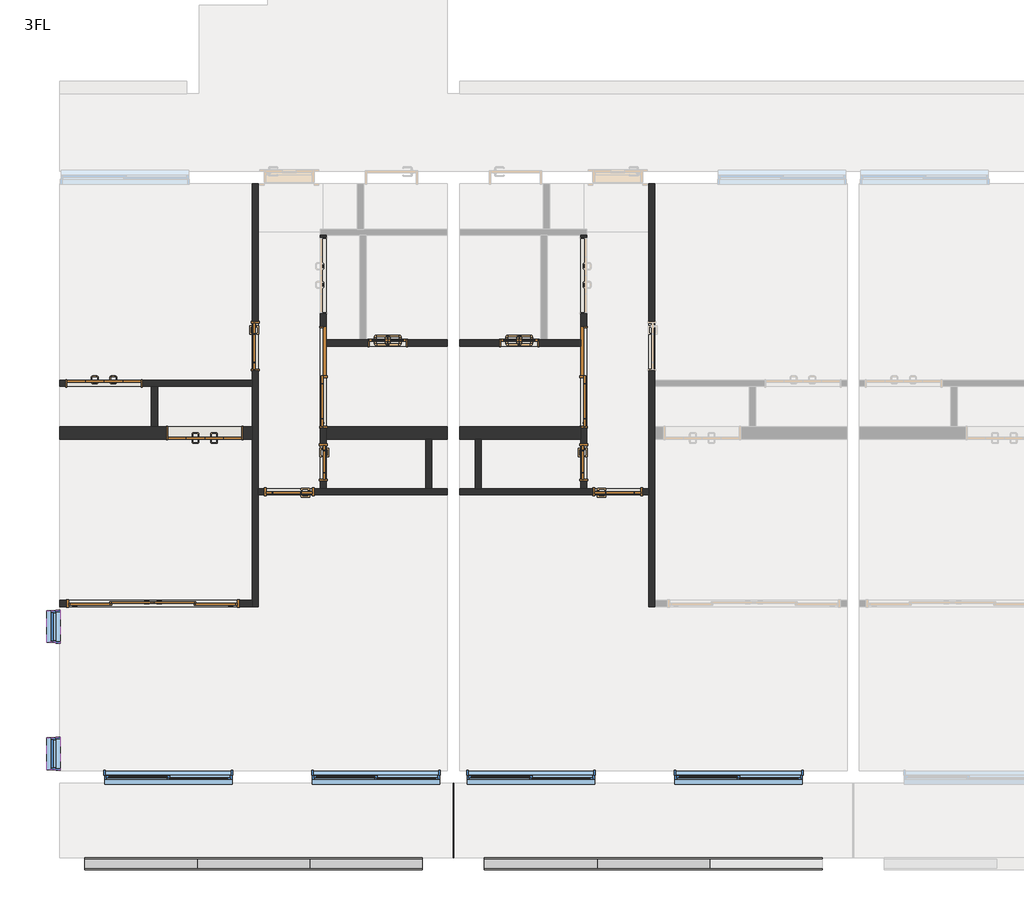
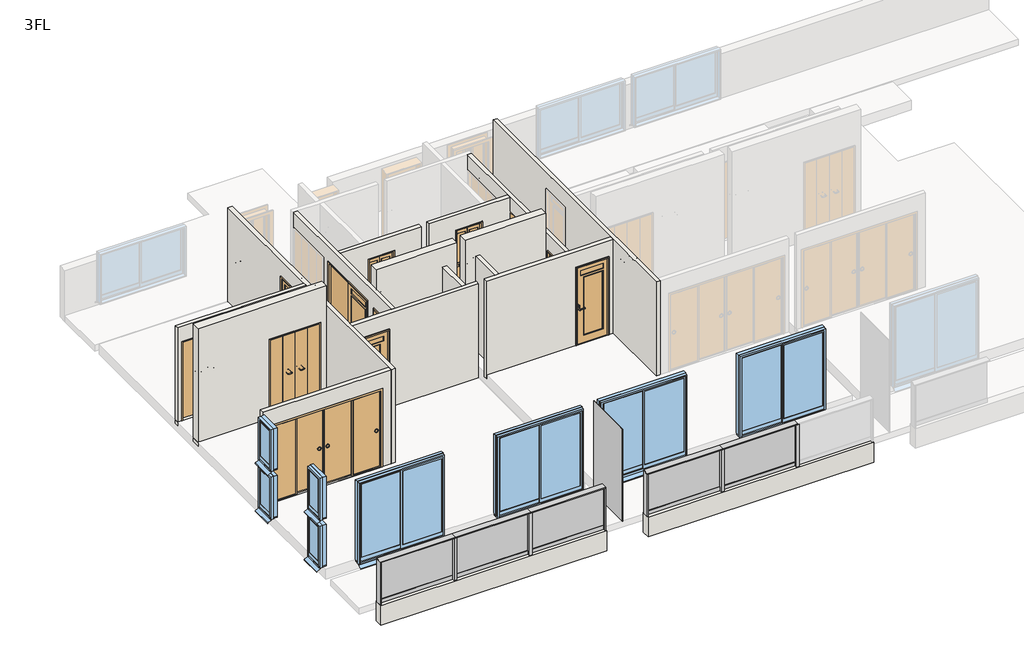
# One storey, part 1 of 3: 18 walls, 12 doors, 12 members, 8 windows, 6 plates.
"""IFC4 building model written with IfcOpenShell, lengths in millimetres."""

from ifc_helpers import new_model, si_unit, frame, origin, place, context, project, spatial, polyline, outline, extrude, faceted_brep, transform, mapped, element, save
from components import w1200h2000_6a144d60, w1200h2000_98cacc9b, w1600h2000_4c3c234a, w1600h2000_ca690e72, w2800h2000_670b855b, w600h2000_7f2747f4, w600h2000_6a266bef, w600h2000_94bb9c3c, w600h2000_8ea70a65, w800h2000_13e9f519, w800h2000_ccb03061, member_25x150_3f8205e2, member_25x150_f694351b, member_70x150_851c8a9b, plate_9f48129f, plate_365944b3, plate_cef4847d, window_2000x2000_f1ff98da, window_450x1000_e0a5e2da

model = new_model("IFC4")

# Units and contexts
model_context = context("Model", 3, world=origin())
ifc_project = project(units=[si_unit("LENGTHUNIT", "METRE", prefix="MILLI")], contexts=[model_context])

# Site, building, storey
site = spatial("IfcSite", under=ifc_project)
building = spatial("IfcBuilding", under=site)
storey = spatial("IfcBuildingStorey", under=building, Name="3FL", Elevation=7000.0)

# Doors
placement = place(None, origin())
w1200h2000_shape = w1200h2000_6a144d60(model_context)
element("IfcDoor", 1, ObjectType="木製折戸 : w1200h2000", at=placement, inside=storey, context=model_context, shape_type="MappedRepresentation", body=[
    mapped(w1200h2000_shape, transform((-10366.2187246, -9020.1171638, 7100.0), x_axis=(1.0, 0.0, 0.0), y_axis=(0.0, 1.0, 0.0), z_axis=(0.0, 0.0, 1.0))),
])
w1200h2000_2_shape = w1200h2000_98cacc9b(model_context)
element("IfcDoor", 2, ObjectType="木製折戸 : w1200h2000", at=placement, inside=storey, context=model_context, shape_type="MappedRepresentation", body=[
    mapped(w1200h2000_2_shape, transform((-8741.2187246, -9820.1171638, 7100.0), x_axis=(-1.0, 0.0, 0.0), y_axis=(0.0, -1.0, 0.0), z_axis=(0.0, 0.0, 1.0))),
])
w1600h2000_shape = w1600h2000_4c3c234a(model_context)
element("IfcDoor", 3, ObjectType="片引戸CL2017 : w1600h2000", at=placement, inside=storey, context=model_context, shape_type="MappedRepresentation", body=[
    mapped(w1600h2000_shape, transform((-6828.7187246, -8920.1171638, 7100.0), x_axis=(0.0, -1.0, 0.0), y_axis=(1.0, 0.0, 0.0), z_axis=(0.0, 0.0, 1.0))),
])
w1600h2000_2_shape = w1600h2000_ca690e72(model_context)
element("IfcDoor", 4, ObjectType="片引戸CL2017 : w1600h2000", at=placement, inside=storey, context=model_context, shape_type="MappedRepresentation", body=[
    mapped(w1600h2000_2_shape, transform((-2628.7187246, -8920.1171638, 7100.0), x_axis=(0.0, -1.0, 0.0), y_axis=(1.0, 0.0, 0.0), z_axis=(0.0, 0.0, 1.0))),
])
w2800h2000_shape = w2800h2000_670b855b(model_context)
element("IfcDoor", 5, ObjectType="引違い 4 枚 2 溝_襖 : w2800h2000", at=placement, inside=storey, context=model_context, shape_type="MappedRepresentation", body=[
    mapped(w2800h2000_shape, transform((-9584.2542286, -12570.1171638, 7100.0), x_axis=(-1.0, 0.0, 0.0), y_axis=(0.0, -1.0, 0.0), z_axis=(0.0, 0.0, 1.0))),
])
w600h2000_shape = w600h2000_7f2747f4(model_context)
element("IfcDoor", 6, ObjectType="片開戸CL2058 : w600h2000", at=placement, inside=storey, context=model_context, shape_type="MappedRepresentation", body=[
    mapped(w600h2000_shape, transform((-6828.7187246, -10295.1171638, 7100.0), x_axis=(0.0, -1.0, 0.0), y_axis=(1.0, 0.0, 0.0), z_axis=(0.0, 0.0, 1.0))),
])
w600h2000_2_shape = w600h2000_6a266bef(model_context)
element("IfcDoor", 7, ObjectType="浴室折戸 : w600h2000", at=placement, inside=storey, context=model_context, shape_type="MappedRepresentation", body=[
    mapped(w600h2000_2_shape, transform((-5788.7187246, -8370.1171638, 7100.0), x_axis=(1.0, 0.0, 0.0), y_axis=(0.0, 1.0, 0.0), z_axis=(0.0, 0.0, 1.0))),
])
w600h2000_3_shape = w600h2000_94bb9c3c(model_context)
element("IfcDoor", 8, ObjectType="浴室折戸 : w600h2000", at=placement, inside=storey, context=model_context, shape_type="MappedRepresentation", body=[
    mapped(w600h2000_3_shape, transform((-3668.7187246, -8370.1171638, 7100.0), x_axis=(-1.0, 0.0, 0.0), y_axis=(0.0, -1.0, 0.0), z_axis=(0.0, 0.0, 1.0))),
])
w600h2000_4_shape = w600h2000_8ea70a65(model_context)
element("IfcDoor", 9, ObjectType="片開戸CL2058 : w600h2000", at=placement, inside=storey, context=model_context, shape_type="MappedRepresentation", body=[
    mapped(w600h2000_4_shape, transform((-2628.7187246, -10295.1171638, 7100.0), x_axis=(0.0, -1.0, 0.0), y_axis=(1.0, 0.0, 0.0), z_axis=(0.0, 0.0, 1.0))),
])
w800h2000_shape = w800h2000_13e9f519(model_context)
element("IfcDoor", 10, ObjectType="片開戸CL2058 : w800h2000", at=placement, inside=storey, context=model_context, shape_type="MappedRepresentation", body=[
    mapped(w800h2000_shape, transform((-7928.7187246, -8420.1171638, 7100.0), x_axis=(0.0, -1.0, 0.0), y_axis=(1.0, 0.0, 0.0), z_axis=(0.0, 0.0, 1.0))),
])
element("IfcDoor", 11, ObjectType="片開戸CL2058 : w800h2000", at=placement, inside=storey, context=model_context, shape_type="MappedRepresentation", body=[
    mapped(w800h2000_shape, transform((-2078.7187246, -10770.1171638, 7100.0), x_axis=(1.0, 0.0, 0.0), y_axis=(0.0, 1.0, 0.0), z_axis=(0.0, 0.0, 1.0))),
])
w800h2000_2_shape = w800h2000_ccb03061(model_context)
element("IfcDoor", 12, ObjectType="片開戸CL2058 : w800h2000", at=placement, inside=storey, context=model_context, shape_type="MappedRepresentation", body=[
    mapped(w800h2000_2_shape, transform((-7378.7187246, -10770.1171638, 7100.0), x_axis=(-1.0, 0.0, 0.0), y_axis=(0.0, -1.0, 0.0), z_axis=(0.0, 0.0, 1.0))),
])

# Members
member_25x150_shape = member_25x150_3f8205e2(model_context)
element("IfcMember", 13, ObjectType="長方形のマリオン : 25x150", at=placement, inside=storey, context=model_context, shape_type="MappedRepresentation", body=[
    mapped(member_25x150_shape, transform((-5228.7187246, -16770.1171638, 7000.0), x_axis=(1.0, 0.0, 0.0), y_axis=(0.0, -1.0, 0.0), z_axis=(0.0, 0.0, -1.0))),
])
element("IfcMember", 14, ObjectType="長方形のマリオン : 25x150", at=placement, inside=storey, context=model_context, shape_type="MappedRepresentation", body=[
    mapped(member_25x150_shape, transform((-10678.7187246, -16770.1171638, 8075.0), x_axis=(-1.0, 0.0, 0.0), y_axis=(0.0, -1.0, 0.0), z_axis=(0.0, 0.0, 1.0))),
])
element("IfcMember", 15, ObjectType="長方形のマリオン : 25x150", at=placement, inside=storey, context=model_context, shape_type="MappedRepresentation", body=[
    mapped(member_25x150_shape, transform((-4228.7187246, -16770.1171638, 8075.0), x_axis=(-1.0, 0.0, 0.0), y_axis=(0.0, -1.0, 0.0), z_axis=(0.0, 0.0, 1.0))),
])
member_25x150_2_shape = member_25x150_f694351b(model_context)
element("IfcMember", 16, ObjectType="長方形のマリオン : 25x150", at=placement, inside=storey, context=model_context, shape_type="MappedRepresentation", body=[
    mapped(member_25x150_2_shape, transform((-5228.7187246, -16770.1171638, 8100.0), x_axis=(0.0, 0.0, 1.0), y_axis=(0.0, -1.0, 0.0), z_axis=(1.0, 0.0, 0.0))),
])
element("IfcMember", 17, ObjectType="長方形のマリオン : 25x150", at=placement, inside=storey, context=model_context, shape_type="MappedRepresentation", body=[
    mapped(member_25x150_2_shape, transform((-8862.052058, -16770.1171638, 8100.0), x_axis=(0.0, 0.0, 1.0), y_axis=(0.0, -1.0, 0.0), z_axis=(1.0, 0.0, 0.0))),
])
element("IfcMember", 18, ObjectType="長方形のマリオン : 25x150", at=placement, inside=storey, context=model_context, shape_type="MappedRepresentation", body=[
    mapped(member_25x150_2_shape, transform((-2412.052058, -16770.1171638, 8100.0), x_axis=(0.0, 0.0, 1.0), y_axis=(0.0, -1.0, 0.0), z_axis=(1.0, 0.0, 0.0))),
])
element("IfcMember", 19, ObjectType="長方形のマリオン : 25x150", at=placement, inside=storey, context=model_context, shape_type="MappedRepresentation", body=[
    mapped(member_25x150_2_shape, transform((-7045.3853913, -16770.1171638, 8100.0), x_axis=(0.0, 0.0, 1.0), y_axis=(0.0, -1.0, 0.0), z_axis=(1.0, 0.0, 0.0))),
])
element("IfcMember", 20, ObjectType="長方形のマリオン : 25x150", at=placement, inside=storey, context=model_context, shape_type="MappedRepresentation", body=[
    mapped(member_25x150_2_shape, transform((-595.3853913, -16770.1171638, 8100.0), x_axis=(0.0, 0.0, 1.0), y_axis=(0.0, -1.0, 0.0), z_axis=(1.0, 0.0, 0.0))),
])
member_70x150_shape = member_70x150_851c8a9b(model_context)
element("IfcMember", 21, ObjectType="長方形のマリオン : 70x150", at=placement, inside=storey, context=model_context, shape_type="MappedRepresentation", body=[
    mapped(member_70x150_shape, transform((-8862.052058, -16770.1171638, 7000.0), x_axis=(1.0, 0.0, 0.0), y_axis=(0.0, -1.0, 0.0), z_axis=(0.0, 0.0, -1.0))),
])
element("IfcMember", 22, ObjectType="長方形のマリオン : 70x150", at=placement, inside=storey, context=model_context, shape_type="MappedRepresentation", body=[
    mapped(member_70x150_shape, transform((-7045.3853913, -16770.1171638, 7000.0), x_axis=(1.0, 0.0, 0.0), y_axis=(0.0, -1.0, 0.0), z_axis=(0.0, 0.0, -1.0))),
])
element("IfcMember", 23, ObjectType="長方形のマリオン : 70x150", at=placement, inside=storey, context=model_context, shape_type="MappedRepresentation", body=[
    mapped(member_70x150_shape, transform((-2412.052058, -16770.1171638, 7000.0), x_axis=(1.0, 0.0, 0.0), y_axis=(0.0, -1.0, 0.0), z_axis=(0.0, 0.0, -1.0))),
])
element("IfcMember", 24, ObjectType="長方形のマリオン : 70x150", at=placement, inside=storey, context=model_context, shape_type="MappedRepresentation", body=[
    mapped(member_70x150_shape, transform((-595.3853913, -16770.1171638, 7000.0), x_axis=(1.0, 0.0, 0.0), y_axis=(0.0, -1.0, 0.0), z_axis=(0.0, 0.0, -1.0))),
])

# Plates
plate_shape = plate_9f48129f(model_context)
element("IfcPlate", 25, ObjectType="r パネル FIX 下框付 : 框 H100", at=placement, inside=storey, context=model_context, shape_type="MappedRepresentation", body=[
    mapped(plate_shape, transform((-9775.3853913, -16770.1171638, 7000.0), x_axis=(1.0, 0.0, 0.0), y_axis=(0.0, 1.0, 0.0), z_axis=(0.0, 0.0, 1.0))),
])
element("IfcPlate", 26, ObjectType="r パネル FIX 下框付 : 框 H100", at=placement, inside=storey, context=model_context, shape_type="MappedRepresentation", body=[
    mapped(plate_shape, transform((-6132.052058, -16770.1171638, 7000.0), x_axis=(1.0, 0.0, 0.0), y_axis=(0.0, 1.0, 0.0), z_axis=(0.0, 0.0, 1.0))),
])
element("IfcPlate", 27, ObjectType="r パネル FIX 下框付 : 框 H100", at=placement, inside=storey, context=model_context, shape_type="MappedRepresentation", body=[
    mapped(plate_shape, transform((-3325.3853913, -16770.1171638, 7000.0), x_axis=(1.0, 0.0, 0.0), y_axis=(0.0, 1.0, 0.0), z_axis=(0.0, 0.0, 1.0))),
])
plate_2_shape = plate_365944b3(model_context)
element("IfcPlate", 28, ObjectType="r パネル FIX 下框付 : 框 H100", at=placement, inside=storey, context=model_context, shape_type="MappedRepresentation", body=[
    mapped(plate_2_shape, transform((-7953.7187246, -16770.1171638, 7000.0), x_axis=(1.0, 0.0, 0.0), y_axis=(0.0, 1.0, 0.0), z_axis=(0.0, 0.0, 1.0))),
])
element("IfcPlate", 29, ObjectType="r パネル FIX 下框付 : 框 H100", at=placement, inside=storey, context=model_context, shape_type="MappedRepresentation", body=[
    mapped(plate_2_shape, transform((-1503.7187246, -16770.1171638, 7000.0), x_axis=(1.0, 0.0, 0.0), y_axis=(0.0, 1.0, 0.0), z_axis=(0.0, 0.0, 1.0))),
])
plate_3_shape = plate_cef4847d(model_context)
element("IfcPlate", 30, ObjectType="システム パネル : 標準", at=placement, inside=storey, context=model_context, shape_type="MappedRepresentation", body=[
    mapped(plate_3_shape, transform((-4728.7187246, -16070.1171638, 6950.0), x_axis=(0.0, -1.0, 0.0), y_axis=(1.0, 0.0, 0.0), z_axis=(0.0, 0.0, 1.0))),
])

# Walls
element("IfcWall", 31, ObjectType="(R)RC200", at=placement, inside=storey, context=model_context, shape_type="Brep", body=[
    faceted_brep([(-11078.7187246, -9920.1171638, 7000.0), (-7978.7187246, -9920.1171638, 7000.0), (-7978.7187246, -9920.1171638, 10000.0), (-11078.7187246, -9920.1171638, 10000.0), (-9361.2187246, -9920.1171638, 9120.0), (-8121.2187246, -9920.1171638, 9120.0), (-8121.2187246, -9920.1171638, 7100.0), (-9361.2187246, -9920.1171638, 7100.0), (-11078.7187246, -9720.1171638, 7000.0), (-11078.7187246, -9720.1171638, 10000.0), (-7978.7187246, -9720.1171638, 10000.0), (-7978.7187246, -9720.1171638, 7000.0), (-9503.7187246, -9720.1171638, 7000.0), (-9603.7187246, -9720.1171638, 7000.0), (-9361.2187246, -9720.1171638, 9120.0), (-9361.2187246, -9720.1171638, 7100.0), (-8121.2187246, -9720.1171638, 7100.0), (-8121.2187246, -9720.1171638, 9120.0)], [[[0, 1, 2, 3], [4, 5, 6, 7]], [[8, 9, 10, 11, 12, 13], [14, 15, 16, 17]], [[1, 0, 8, 13, 12, 11]], [[3, 2, 10, 9]], [[2, 1, 11, 10]], [[15, 14, 4, 7]], [[16, 15, 7, 6]], [[17, 16, 6, 5]], [[14, 17, 5, 4]], [[0, 3, 9, 8]]]),
])
element("IfcWall", 32, ObjectType="(R)RC200", at=placement, inside=storey, context=model_context, shape_type="Brep", body=[
    faceted_brep([(-6778.7187246, -9920.1171638, 7000.0), (-5178.7187246, -9920.1171638, 7000.0), (-5078.7187246, -9920.1171638, 7000.0), (-4828.7187246, -9920.1171638, 7000.0), (-4828.7187246, -9920.1171638, 10000.0), (-6778.7187246, -9920.1171638, 10000.0), (-6778.7187246, -9720.1171638, 7000.0), (-6778.7187246, -9720.1171638, 10000.0), (-4828.7187246, -9720.1171638, 10000.0), (-4828.7187246, -9720.1171638, 7000.0)], [[[0, 1, 2, 3, 4, 5]], [[6, 7, 8, 9]], [[3, 2, 1, 0, 6, 9]], [[5, 4, 8, 7]], [[0, 5, 7, 6]], [[4, 3, 9, 8]]]),
])
element("IfcWall", 33, ObjectType="(R)RC200", at=placement, inside=storey, context=model_context, shape_type="Brep", body=[
    faceted_brep([(-2678.7187246, -9720.1171638, 7000.0), (-4628.7187246, -9720.1171638, 7000.0), (-4628.7187246, -9720.1171638, 10000.0), (-2678.7187246, -9720.1171638, 10000.0), (-2678.7187246, -9920.1171638, 7000.0), (-2678.7187246, -9920.1171638, 10000.0), (-4628.7187246, -9920.1171638, 10000.0), (-4628.7187246, -9920.1171638, 7000.0), (-4378.7187246, -9920.1171638, 7000.0), (-4278.7187246, -9920.1171638, 7000.0)], [[[0, 1, 2, 3]], [[4, 5, 6, 7, 8, 9]], [[1, 0, 4, 9, 8, 7]], [[3, 2, 6, 5]], [[0, 3, 5, 4]], [[2, 1, 7, 6]]]),
])
element("IfcWall", 34, ObjectType="(R)RC200", at=placement, inside=storey, context=model_context, shape_type="SweptSolid", body=[
    extrude(outline(polyline([(-5228.7187246, -16870.1171638), (-10678.7187246, -16870.1171638), (-10678.7187246, -16670.1171638), (-5228.7187246, -16670.1171638), (-5228.7187246, -16870.1171638)])), frame((0.0, 0.0, 6500.0), z_axis=(0.0, 0.0, 1.0), x_axis=(1.0, 0.0, 0.0)), (0.0, 0.0, 1.0), 500.0),
])
element("IfcWall", 35, ObjectType="(R)RC200", at=placement, inside=storey, context=model_context, shape_type="SweptSolid", body=[
    extrude(outline(polyline([(1221.2812754, -16870.1171638), (-4228.7187246, -16870.1171638), (-4228.7187246, -16670.1171638), (1221.2812754, -16670.1171638), (1221.2812754, -16870.1171638)])), frame((0.0, 0.0, 6500.0), z_axis=(0.0, 0.0, 1.0), x_axis=(1.0, 0.0, 0.0)), (0.0, 0.0, 1.0), 500.0),
])
element("IfcWall", 36, ObjectType="(L1)LGS100", at=placement, inside=storey, context=model_context, shape_type="Brep", body=[
    faceted_brep([(-11078.7187246, -9070.1171638, 7000.0), (-9603.7187246, -9070.1171638, 7000.0), (-9503.7187246, -9070.1171638, 7000.0), (-7978.7187246, -9070.1171638, 7000.0), (-7978.7187246, -9070.1171638, 9500.0), (-9503.7187246, -9070.1171638, 9500.0), (-9603.7187246, -9070.1171638, 9500.0), (-11078.7187246, -9070.1171638, 9500.0), (-9746.2187246, -9070.1171638, 9120.0), (-9746.2187246, -9070.1171638, 7100.0), (-10986.2187246, -9070.1171638, 7100.0), (-10986.2187246, -9070.1171638, 9120.0), (-7978.7187246, -8970.1171638, 7000.0), (-11078.7187246, -8970.1171638, 7000.0), (-11078.7187246, -8970.1171638, 9500.0), (-7978.7187246, -8970.1171638, 9500.0), (-9746.2187246, -8970.1171638, 7100.0), (-9746.2187246, -8970.1171638, 9120.0), (-10986.2187246, -8970.1171638, 9120.0), (-10986.2187246, -8970.1171638, 7100.0)], [[[0, 1, 2, 3, 4, 5, 6, 7], [8, 9, 10, 11]], [[12, 13, 14, 15], [16, 17, 18, 19]], [[3, 2, 1, 0, 13, 12]], [[7, 6, 5, 4, 15, 14]], [[4, 3, 12, 15]], [[8, 17, 16, 9]], [[9, 16, 19, 10]], [[17, 8, 11, 18]], [[18, 11, 10, 19]], [[0, 7, 14, 13]]]),
])
element("IfcWall", 37, ObjectType="(L1)LGS100", at=placement, inside=storey, context=model_context, shape_type="SweptSolid", body=[
    extrude(outline(polyline([(-9503.7187246, -9070.1171638), (-9503.7187246, -9720.1171638), (-9603.7187246, -9720.1171638), (-9603.7187246, -9070.1171638), (-9503.7187246, -9070.1171638)])), frame((0.0, 0.0, 7000.0), z_axis=(0.0, 0.0, 1.0), x_axis=(1.0, 0.0, 0.0)), (0.0, 0.0, 1.0), 2500.0),
])
element("IfcWall", 38, ObjectType="(L1)LGS100", at=placement, inside=storey, context=model_context, shape_type="Brep", body=[
    faceted_brep([(-7878.7187246, -12620.1171638, 7000.0), (-7878.7187246, -10820.1171638, 7000.0), (-7878.7187246, -10720.1171638, 7000.0), (-7878.7187246, -5800.1171638, 7000.0), (-7878.7187246, -5800.1171638, 9500.0), (-7878.7187246, -10720.1171638, 9500.0), (-7878.7187246, -10820.1171638, 9500.0), (-7878.7187246, -12620.1171638, 9500.0), (-7878.7187246, -8820.1171638, 7100.0), (-7878.7187246, -8820.1171638, 9100.0), (-7878.7187246, -8020.1171638, 9100.0), (-7878.7187246, -8020.1171638, 7100.0), (-7978.7187246, -12620.1171638, 7000.0), (-7978.7187246, -12620.1171638, 9500.0), (-7978.7187246, -12520.1171638, 9500.0), (-7978.7187246, -9070.1171638, 9500.0), (-7978.7187246, -8970.1171638, 9500.0), (-7978.7187246, -5800.1171638, 9500.0), (-7978.7187246, -5800.1171638, 7000.0), (-7978.7187246, -8970.1171638, 7000.0), (-7978.7187246, -9070.1171638, 7000.0), (-7978.7187246, -9720.1171638, 7000.0), (-7978.7187246, -9920.1171638, 7000.0), (-7978.7187246, -12520.1171638, 7000.0), (-7978.7187246, -8820.1171638, 7100.0), (-7978.7187246, -8020.1171638, 7100.0), (-7978.7187246, -8020.1171638, 9100.0), (-7978.7187246, -8820.1171638, 9100.0)], [[[0, 1, 2, 3, 4, 5, 6, 7], [8, 9, 10, 11]], [[12, 13, 14, 15, 16, 17, 18, 19, 20, 21, 22, 23], [24, 25, 26, 27]], [[3, 2, 1, 0, 12, 23, 22, 21, 20, 19, 18]], [[7, 6, 5, 4, 17, 16, 15, 14, 13]], [[0, 7, 13, 12]], [[9, 8, 24, 27]], [[10, 9, 27, 26]], [[11, 10, 26, 25]], [[8, 11, 25, 24]], [[4, 3, 18, 17]]]),
])
element("IfcWall", 39, ObjectType="(L1)LGS100", at=placement, inside=storey, context=model_context, shape_type="Brep", body=[
    faceted_brep([(-6778.7187246, -8420.1171638, 7000.0), (-4828.7187246, -8420.1171638, 7000.0), (-4828.7187246, -8420.1171638, 9500.0), (-6778.7187246, -8420.1171638, 9500.0), (-5468.7187246, -8420.1171638, 9120.0), (-5468.7187246, -8420.1171638, 7100.0), (-6108.7187246, -8420.1171638, 7100.0), (-6108.7187246, -8420.1171638, 9120.0), (-6778.7187246, -8320.1171638, 7000.0), (-6778.7187246, -8320.1171638, 9500.0), (-6238.7187246, -8320.1171638, 9500.0), (-6138.7187246, -8320.1171638, 9500.0), (-4828.7187246, -8320.1171638, 9500.0), (-4828.7187246, -8320.1171638, 7000.0), (-6138.7187246, -8320.1171638, 7000.0), (-6238.7187246, -8320.1171638, 7000.0), (-5468.7187246, -8320.1171638, 9120.0), (-6108.7187246, -8320.1171638, 9120.0), (-6108.7187246, -8320.1171638, 7100.0), (-5468.7187246, -8320.1171638, 7100.0)], [[[0, 1, 2, 3], [4, 5, 6, 7]], [[8, 9, 10, 11, 12, 13, 14, 15], [16, 17, 18, 19]], [[1, 0, 8, 15, 14, 13]], [[3, 2, 12, 11, 10, 9]], [[0, 3, 9, 8]], [[5, 4, 16, 19]], [[6, 5, 19, 18]], [[7, 6, 18, 17]], [[4, 7, 17, 16]], [[2, 1, 13, 12]]]),
])
element("IfcWall", 40, ObjectType="(L1)LGS100", at=placement, inside=storey, context=model_context, shape_type="Brep", body=[
    faceted_brep([(-6778.7187246, -10720.1171638, 7000.0), (-6778.7187246, -9920.1171638, 7000.0), (-6778.7187246, -9720.1171638, 7000.0), (-6778.7187246, -8420.1171638, 7000.0), (-6778.7187246, -8320.1171638, 7000.0), (-6778.7187246, -6630.1171638, 7000.0), (-6778.7187246, -6630.1171638, 9500.0), (-6778.7187246, -8320.1171638, 9500.0), (-6778.7187246, -8420.1171638, 9500.0), (-6778.7187246, -10720.1171638, 9500.0), (-6778.7187246, -10595.1171638, 7100.0), (-6778.7187246, -10595.1171638, 9100.0), (-6778.7187246, -9995.1171638, 9100.0), (-6778.7187246, -9995.1171638, 7100.0), (-6778.7187246, -6660.1171638, 7100.0), (-6778.7187246, -7900.1171638, 7100.0), (-6778.7187246, -7900.1171638, 9120.0), (-6778.7187246, -6660.1171638, 9120.0), (-6778.7187246, -9745.1171638, 7100.0), (-6778.7187246, -9745.1171638, 9140.0), (-6778.7187246, -8095.1171638, 9140.0), (-6778.7187246, -8095.1171638, 7100.0), (-6878.7187246, -6630.1171638, 7000.0), (-6878.7187246, -10720.1171638, 7000.0), (-6878.7187246, -10720.1171638, 9500.0), (-6878.7187246, -6630.1171638, 9500.0), (-6878.7187246, -10595.1171638, 7100.0), (-6878.7187246, -9995.1171638, 7100.0), (-6878.7187246, -9995.1171638, 9100.0), (-6878.7187246, -10595.1171638, 9100.0), (-6878.7187246, -7900.1171638, 7100.0), (-6878.7187246, -6660.1171638, 7100.0), (-6878.7187246, -6660.1171638, 9120.0), (-6878.7187246, -7900.1171638, 9120.0), (-6878.7187246, -9745.1171638, 7100.0), (-6878.7187246, -8095.1171638, 7100.0), (-6878.7187246, -8095.1171638, 9140.0), (-6878.7187246, -9745.1171638, 9140.0)], [[[0, 1, 2, 3, 4, 5, 6, 7, 8, 9], [10, 11, 12, 13], [14, 15, 16, 17], [18, 19, 20, 21]], [[22, 23, 24, 25], [26, 27, 28, 29], [30, 31, 32, 33], [34, 35, 36, 37]], [[5, 4, 3, 2, 1, 0, 23, 22]], [[9, 8, 7, 6, 25, 24]], [[0, 9, 24, 23]], [[11, 10, 26, 29]], [[12, 11, 29, 28]], [[13, 12, 28, 27]], [[10, 13, 27, 26]], [[14, 31, 30, 15]], [[15, 30, 33, 16]], [[16, 33, 32, 17]], [[19, 18, 34, 37]], [[20, 19, 37, 36]], [[21, 20, 36, 35]], [[18, 21, 35, 34]], [[31, 14, 17, 32]], [[6, 5, 22, 25]]]),
])
element("IfcWall", 41, ObjectType="(L1)LGS100", at=placement, inside=storey, context=model_context, shape_type="SweptSolid", body=[
    extrude(outline(polyline([(-5078.7187246, -9920.1171638), (-5078.7187246, -10720.1171638), (-5178.7187246, -10720.1171638), (-5178.7187246, -9920.1171638), (-5078.7187246, -9920.1171638)])), frame((0.0, 0.0, 7000.0), z_axis=(0.0, 0.0, 1.0), x_axis=(1.0, 0.0, 0.0)), (0.0, 0.0, 1.0), 2500.0),
])
element("IfcWall", 42, ObjectType="(L1)LGS100", at=placement, inside=storey, context=model_context, shape_type="Brep", body=[
    faceted_brep([(-7878.7187246, -10820.1171638, 7000.0), (-4828.7187246, -10820.1171638, 7000.0), (-4828.7187246, -10820.1171638, 9500.0), (-7878.7187246, -10820.1171638, 9500.0), (-7778.7187246, -10820.1171638, 7100.0), (-7778.7187246, -10820.1171638, 9100.0), (-6978.7187246, -10820.1171638, 9100.0), (-6978.7187246, -10820.1171638, 7100.0), (-4828.7187246, -10720.1171638, 7000.0), (-5078.7187246, -10720.1171638, 7000.0), (-5178.7187246, -10720.1171638, 7000.0), (-6778.7187246, -10720.1171638, 7000.0), (-6878.7187246, -10720.1171638, 7000.0), (-7878.7187246, -10720.1171638, 7000.0), (-7878.7187246, -10720.1171638, 9500.0), (-6878.7187246, -10720.1171638, 9500.0), (-6778.7187246, -10720.1171638, 9500.0), (-5178.7187246, -10720.1171638, 9500.0), (-5078.7187246, -10720.1171638, 9500.0), (-4828.7187246, -10720.1171638, 9500.0), (-7778.7187246, -10720.1171638, 9100.0), (-7778.7187246, -10720.1171638, 7100.0), (-6978.7187246, -10720.1171638, 7100.0), (-6978.7187246, -10720.1171638, 9100.0)], [[[0, 1, 2, 3], [4, 5, 6, 7]], [[8, 9, 10, 11, 12, 13, 14, 15, 16, 17, 18, 19], [20, 21, 22, 23]], [[1, 0, 13, 12, 11, 10, 9, 8]], [[3, 2, 19, 18, 17, 16, 15, 14]], [[0, 3, 14, 13]], [[4, 21, 20, 5]], [[5, 20, 23, 6]], [[6, 23, 22, 7]], [[21, 4, 7, 22]], [[2, 1, 8, 19]]]),
])
element("IfcWall", 43, ObjectType="(L1)LGS100", at=placement, inside=storey, context=model_context, shape_type="SweptSolid", body=[
    extrude(outline(polyline([(7000.0, -11078.7187246), (7000.0, -7978.7187246), (9500.0, -7978.7187246), (9500.0, -11078.7187246), (7000.0, -11078.7187246)]), holes=[polyline([(9100.0, -10978.7187246), (9100.0, -8178.7187246), (7100.0, -8178.7187246), (7100.0, -10978.7187246), (9100.0, -10978.7187246)])]), frame((0.0, -12620.1171638, 0.0), z_axis=(0.0, 1.0, 0.0), x_axis=(0.0, 0.0, 1.0)), (0.0, 0.0, 1.0), 100.0),
])
element("IfcWall", 44, ObjectType="(L1)LGS100", at=placement, inside=storey, context=model_context, shape_type="Brep", body=[
    faceted_brep([(-1478.7187246, -12620.1171638, 7000.0), (-1478.7187246, -12520.1171638, 7000.0), (-1478.7187246, -9920.1171638, 7000.0), (-1478.7187246, -9720.1171638, 7000.0), (-1478.7187246, -9070.1171638, 7000.0), (-1478.7187246, -8970.1171638, 7000.0), (-1478.7187246, -5800.1171638, 7000.0), (-1478.7187246, -5800.1171638, 9500.0), (-1478.7187246, -8970.1171638, 9500.0), (-1478.7187246, -9070.1171638, 9500.0), (-1478.7187246, -12520.1171638, 9500.0), (-1478.7187246, -12620.1171638, 9500.0), (-1478.7187246, -8820.1171638, 7100.0), (-1478.7187246, -8820.1171638, 9100.0), (-1478.7187246, -8020.1171638, 9100.0), (-1478.7187246, -8020.1171638, 7100.0), (-1578.7187246, -12620.1171638, 7000.0), (-1578.7187246, -12620.1171638, 9500.0), (-1578.7187246, -10820.1171638, 9500.0), (-1578.7187246, -10720.1171638, 9500.0), (-1578.7187246, -5800.1171638, 9500.0), (-1578.7187246, -5800.1171638, 7000.0), (-1578.7187246, -10720.1171638, 7000.0), (-1578.7187246, -10820.1171638, 7000.0), (-1578.7187246, -8820.1171638, 7100.0), (-1578.7187246, -8020.1171638, 7100.0), (-1578.7187246, -8020.1171638, 9100.0), (-1578.7187246, -8820.1171638, 9100.0)], [[[0, 1, 2, 3, 4, 5, 6, 7, 8, 9, 10, 11], [12, 13, 14, 15]], [[16, 17, 18, 19, 20, 21, 22, 23], [24, 25, 26, 27]], [[6, 5, 4, 3, 2, 1, 0, 16, 23, 22, 21]], [[11, 10, 9, 8, 7, 20, 19, 18, 17]], [[0, 11, 17, 16]], [[13, 12, 24, 27]], [[14, 13, 27, 26]], [[15, 14, 26, 25]], [[12, 15, 25, 24]], [[7, 6, 21, 20]]]),
])
element("IfcWall", 45, ObjectType="(L1)LGS100", at=placement, inside=storey, context=model_context, shape_type="Brep", body=[
    faceted_brep([(-2678.7187246, -8320.1171638, 7000.0), (-3218.7187246, -8320.1171638, 7000.0), (-3318.7187246, -8320.1171638, 7000.0), (-4628.7187246, -8320.1171638, 7000.0), (-4628.7187246, -8320.1171638, 9500.0), (-3318.7187246, -8320.1171638, 9500.0), (-3218.7187246, -8320.1171638, 9500.0), (-2678.7187246, -8320.1171638, 9500.0), (-3988.7187246, -8320.1171638, 9120.0), (-3988.7187246, -8320.1171638, 7100.0), (-3348.7187246, -8320.1171638, 7100.0), (-3348.7187246, -8320.1171638, 9120.0), (-2678.7187246, -8420.1171638, 7000.0), (-2678.7187246, -8420.1171638, 9500.0), (-4628.7187246, -8420.1171638, 9500.0), (-4628.7187246, -8420.1171638, 7000.0), (-3988.7187246, -8420.1171638, 9120.0), (-3348.7187246, -8420.1171638, 9120.0), (-3348.7187246, -8420.1171638, 7100.0), (-3988.7187246, -8420.1171638, 7100.0)], [[[0, 1, 2, 3, 4, 5, 6, 7], [8, 9, 10, 11]], [[12, 13, 14, 15], [16, 17, 18, 19]], [[3, 2, 1, 0, 12, 15]], [[7, 6, 5, 4, 14, 13]], [[0, 7, 13, 12]], [[9, 8, 16, 19]], [[10, 9, 19, 18]], [[11, 10, 18, 17]], [[8, 11, 17, 16]], [[4, 3, 15, 14]]]),
])
element("IfcWall", 46, ObjectType="(L1)LGS100", at=placement, inside=storey, context=model_context, shape_type="Brep", body=[
    faceted_brep([(-2578.7187246, -10720.1171638, 7000.0), (-2578.7187246, -6630.1171638, 7000.0), (-2578.7187246, -6630.1171638, 9500.0), (-2578.7187246, -10720.1171638, 9500.0), (-2578.7187246, -10595.1171638, 7100.0), (-2578.7187246, -10595.1171638, 9100.0), (-2578.7187246, -9995.1171638, 9100.0), (-2578.7187246, -9995.1171638, 7100.0), (-2578.7187246, -6660.1171638, 7100.0), (-2578.7187246, -7900.1171638, 7100.0), (-2578.7187246, -7900.1171638, 9120.0), (-2578.7187246, -6660.1171638, 9120.0), (-2578.7187246, -9745.1171638, 7100.0), (-2578.7187246, -9745.1171638, 9140.0), (-2578.7187246, -8095.1171638, 9140.0), (-2578.7187246, -8095.1171638, 7100.0), (-2678.7187246, -6630.1171638, 7000.0), (-2678.7187246, -8320.1171638, 7000.0), (-2678.7187246, -8420.1171638, 7000.0), (-2678.7187246, -9720.1171638, 7000.0), (-2678.7187246, -9920.1171638, 7000.0), (-2678.7187246, -10720.1171638, 7000.0), (-2678.7187246, -10720.1171638, 9500.0), (-2678.7187246, -8420.1171638, 9500.0), (-2678.7187246, -8320.1171638, 9500.0), (-2678.7187246, -6630.1171638, 9500.0), (-2678.7187246, -10595.1171638, 7100.0), (-2678.7187246, -9995.1171638, 7100.0), (-2678.7187246, -9995.1171638, 9100.0), (-2678.7187246, -10595.1171638, 9100.0), (-2678.7187246, -7900.1171638, 7100.0), (-2678.7187246, -6660.1171638, 7100.0), (-2678.7187246, -6660.1171638, 9120.0), (-2678.7187246, -7900.1171638, 9120.0), (-2678.7187246, -9745.1171638, 7100.0), (-2678.7187246, -8095.1171638, 7100.0), (-2678.7187246, -8095.1171638, 9140.0), (-2678.7187246, -9745.1171638, 9140.0)], [[[0, 1, 2, 3], [4, 5, 6, 7], [8, 9, 10, 11], [12, 13, 14, 15]], [[16, 17, 18, 19, 20, 21, 22, 23, 24, 25], [26, 27, 28, 29], [30, 31, 32, 33], [34, 35, 36, 37]], [[1, 0, 21, 20, 19, 18, 17, 16]], [[3, 2, 25, 24, 23, 22]], [[0, 3, 22, 21]], [[5, 4, 26, 29]], [[6, 5, 29, 28]], [[7, 6, 28, 27]], [[4, 7, 27, 26]], [[8, 31, 30, 9]], [[9, 30, 33, 10]], [[10, 33, 32, 11]], [[13, 12, 34, 37]], [[14, 13, 37, 36]], [[15, 14, 36, 35]], [[12, 15, 35, 34]], [[31, 8, 11, 32]], [[2, 1, 16, 25]]]),
])
element("IfcWall", 47, ObjectType="(L1)LGS100", at=placement, inside=storey, context=model_context, shape_type="SweptSolid", body=[
    extrude(outline(polyline([(-4278.7187246, -9920.1171638), (-4278.7187246, -10720.1171638), (-4378.7187246, -10720.1171638), (-4378.7187246, -9920.1171638), (-4278.7187246, -9920.1171638)])), frame((0.0, 0.0, 7000.0), z_axis=(0.0, 0.0, 1.0), x_axis=(1.0, 0.0, 0.0)), (0.0, 0.0, 1.0), 2500.0),
])
element("IfcWall", 48, ObjectType="(L1)LGS100", at=placement, inside=storey, context=model_context, shape_type="Brep", body=[
    faceted_brep([(-1578.7187246, -10720.1171638, 7000.0), (-2578.7187246, -10720.1171638, 7000.0), (-2678.7187246, -10720.1171638, 7000.0), (-4278.7187246, -10720.1171638, 7000.0), (-4378.7187246, -10720.1171638, 7000.0), (-4628.7187246, -10720.1171638, 7000.0), (-4628.7187246, -10720.1171638, 9500.0), (-4378.7187246, -10720.1171638, 9500.0), (-4278.7187246, -10720.1171638, 9500.0), (-2678.7187246, -10720.1171638, 9500.0), (-2578.7187246, -10720.1171638, 9500.0), (-1578.7187246, -10720.1171638, 9500.0), (-1678.7187246, -10720.1171638, 7100.0), (-1678.7187246, -10720.1171638, 9100.0), (-2478.7187246, -10720.1171638, 9100.0), (-2478.7187246, -10720.1171638, 7100.0), (-4628.7187246, -10820.1171638, 7000.0), (-1578.7187246, -10820.1171638, 7000.0), (-1578.7187246, -10820.1171638, 9500.0), (-4628.7187246, -10820.1171638, 9500.0), (-1678.7187246, -10820.1171638, 9100.0), (-1678.7187246, -10820.1171638, 7100.0), (-2478.7187246, -10820.1171638, 7100.0), (-2478.7187246, -10820.1171638, 9100.0)], [[[0, 1, 2, 3, 4, 5, 6, 7, 8, 9, 10, 11], [12, 13, 14, 15]], [[16, 17, 18, 19], [20, 21, 22, 23]], [[5, 4, 3, 2, 1, 0, 17, 16]], [[11, 10, 9, 8, 7, 6, 19, 18]], [[0, 11, 18, 17]], [[12, 21, 20, 13]], [[13, 20, 23, 14]], [[14, 23, 22, 15]], [[21, 12, 15, 22]], [[6, 5, 16, 19]]]),
])

# Windows
window_2000x2000_shape = window_2000x2000_f1ff98da(model_context)
element("IfcWindow", 49, ObjectType="鋼製_一般枠_引違い-二枚 : 2000x2000", at=placement, inside=storey, context=model_context, shape_type="MappedRepresentation", body=[
    mapped(window_2000x2000_shape, transform((-9328.7187246, -15370.1171638, 6200.0), x_axis=(-1.0, 0.0, 0.0), y_axis=(0.0, -1.0, 0.0), z_axis=(0.0, 0.0, 1.0))),
])
element("IfcWindow", 50, ObjectType="鋼製_一般枠_引違い-二枚 : 2000x2000", at=placement, inside=storey, context=model_context, shape_type="MappedRepresentation", body=[
    mapped(window_2000x2000_shape, transform((-5978.7187246, -15370.1171638, 6200.0), x_axis=(-1.0, 0.0, 0.0), y_axis=(0.0, -1.0, 0.0), z_axis=(0.0, 0.0, 1.0))),
])
element("IfcWindow", 51, ObjectType="鋼製_一般枠_引違い-二枚 : 2000x2000", at=placement, inside=storey, context=model_context, shape_type="MappedRepresentation", body=[
    mapped(window_2000x2000_shape, transform((-128.7187246, -15370.1171638, 6200.0), x_axis=(-1.0, 0.0, 0.0), y_axis=(0.0, -1.0, 0.0), z_axis=(0.0, 0.0, 1.0))),
])
element("IfcWindow", 52, ObjectType="鋼製_一般枠_引違い-二枚 : 2000x2000", at=placement, inside=storey, context=model_context, shape_type="MappedRepresentation", body=[
    mapped(window_2000x2000_shape, transform((-3478.7187246, -15370.1171638, 6200.0), x_axis=(-1.0, 0.0, 0.0), y_axis=(0.0, -1.0, 0.0), z_axis=(0.0, 0.0, 1.0))),
])
window_450x1000_shape = window_450x1000_e0a5e2da(model_context)
element("IfcWindow", 53, ObjectType="鋼製_一般枠_嵌殺し : 450x1000", at=placement, inside=storey, context=model_context, shape_type="MappedRepresentation", body=[
    mapped(window_450x1000_shape, transform((-11178.7187246, -14995.1171638, 6010.0), x_axis=(0.0, 1.0, 0.0), y_axis=(-1.0, 0.0, 0.0), z_axis=(0.0, 0.0, 1.0))),
])
element("IfcWindow", 54, ObjectType="鋼製_一般枠_嵌殺し : 450x1000", at=placement, inside=storey, context=model_context, shape_type="MappedRepresentation", body=[
    mapped(window_450x1000_shape, transform((-11178.7187246, -12945.1171638, 6010.0), x_axis=(0.0, 1.0, 0.0), y_axis=(-1.0, 0.0, 0.0), z_axis=(0.0, 0.0, 1.0))),
])
element("IfcWindow", 55, ObjectType="鋼製_一般枠_嵌殺し : 450x1000", at=placement, inside=storey, context=model_context, shape_type="MappedRepresentation", body=[
    mapped(window_450x1000_shape, transform((-11178.7187246, -14995.1171638, 7230.0), x_axis=(0.0, 1.0, 0.0), y_axis=(-1.0, 0.0, 0.0), z_axis=(0.0, 0.0, 1.0))),
])
element("IfcWindow", 56, ObjectType="鋼製_一般枠_嵌殺し : 450x1000", at=placement, inside=storey, context=model_context, shape_type="MappedRepresentation", body=[
    mapped(window_450x1000_shape, transform((-11178.7187246, -12945.1171638, 7230.0), x_axis=(0.0, 1.0, 0.0), y_axis=(-1.0, 0.0, 0.0), z_axis=(0.0, 0.0, 1.0))),
])

save(model, "model.ifc")
